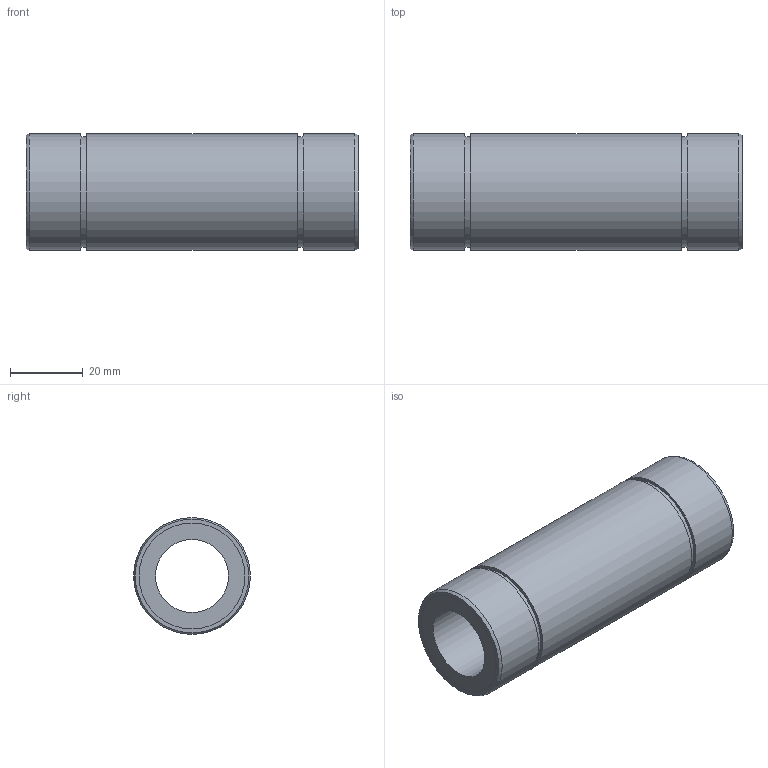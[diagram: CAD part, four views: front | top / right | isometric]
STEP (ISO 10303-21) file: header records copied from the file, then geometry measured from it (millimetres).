
FILE_DESCRIPTION((''),'2;1');
FILE_NAME('D:\製品 (図面)\カタログ用3D\メンテナンスフリー関連\STEP形式\LD-MF\LD20MF.stp','2010-06-01T15:36:16',('Tsuchiya'),(''),'Autodesk Inventor 10','Autodesk Inventor 10','');
FILE_SCHEMA(('AUTOMOTIVE_DESIGN { 1 0 10303 214 1 1 1 1 }'));
Length unit declared in the file: millimetre
Products named in the file (1): LD20MF
Bounding box: 91 x 32 x 32 mm (x, y, z)
Volume: 44228.8 mm3; surface area: 16100 mm2
Topology: 1 solids, 1 shells, 18 faces, 28 edges, 18 vertices
Faces by surface type: plane 8, cylinder 8, torus 2
Full cylindrical faces by diameter (mm): 20 x1, 29 x2, 30.3 x2, 32 x3
Entity records: 391 total; most frequent: DIRECTION 74, CARTESIAN_POINT 55, AXIS2_PLACEMENT_3D 37, ORIENTED_EDGE 36, EDGE_LOOP 36, VERTEX_POINT 18, CIRCLE 18, EDGE_CURVE 18
